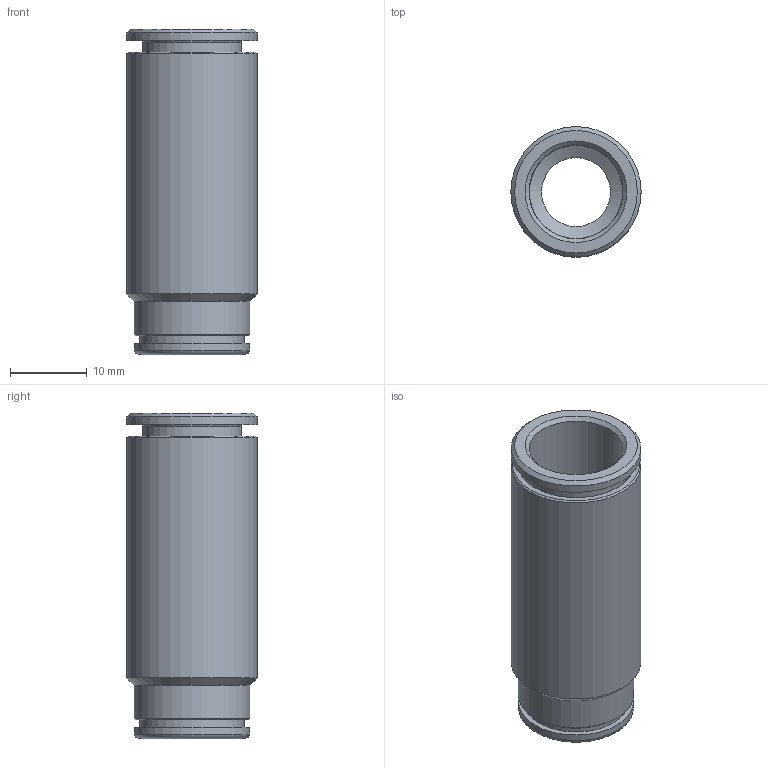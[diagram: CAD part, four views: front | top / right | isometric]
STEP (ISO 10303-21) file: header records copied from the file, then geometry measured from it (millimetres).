
FILE_DESCRIPTION(('Bauteilbeschreibung','HiCAD-Model','HiCAD-STEP-TRANSLATION','Bauteilbeschreibung'),'2;1');
FILE_NAME('B:/ABGLEICH/ZEICHNUNGEN/STEP FÜR INTERNET/STEP/R200311_IPSO_03_12_10.STP','2011-07-19T16:50:00+00:00',('Konstrukteur'),('Konstrukteur Firma GmbH'),' HiCAD neXt 2008, Step 3.1.1401.2J ','HiCAD neXt 2008','confidential');
FILE_SCHEMA(('AUTOMOTIVE_DESIGN { 1 2 10303 214 0 1 1 1 }'));
Length unit declared in the file: millimetre
Products named in the file (4): R200311_IPSO_03_12_10; R200311_N; DR10_N; DR12_5
Assembly tree (3 placements, depth 2):
  R200311_IPSO_03_12_10
    R200311_N
    DR10_N
    DR12_5
Bounding box: 17 x 17 x 42.5 mm (x, y, z)
Volume: 4180.6 mm3; surface area: 5778.2 mm2
Topology: 3 solids, 3 shells, 50 faces, 91 edges, 51 vertices
Faces by surface type: cone 20, cylinder 17, plane 10, torus 3
Full cylindrical faces by diameter (mm): 9 x1, 10.2 x2, 12.15 x1, 12.25 x1, 12.3 x1, 12.9 x1, 13 x1, 13.6 x1, 13.7 x1, 14.5 x1, 14.7 x1, 15 x1, 15.1 x1, 15.2 x1, 17 x2
Entity records: 1371 total; most frequent: DIRECTION 212, CARTESIAN_POINT 156, AXIS2_PLACEMENT_3D 106, EDGE_LOOP 100, ORIENTED_EDGE 100, COLOUR_RGB 53, PRESENTATION_STYLE_ASSIGNMENT 53, ADVANCED_FACE 50
